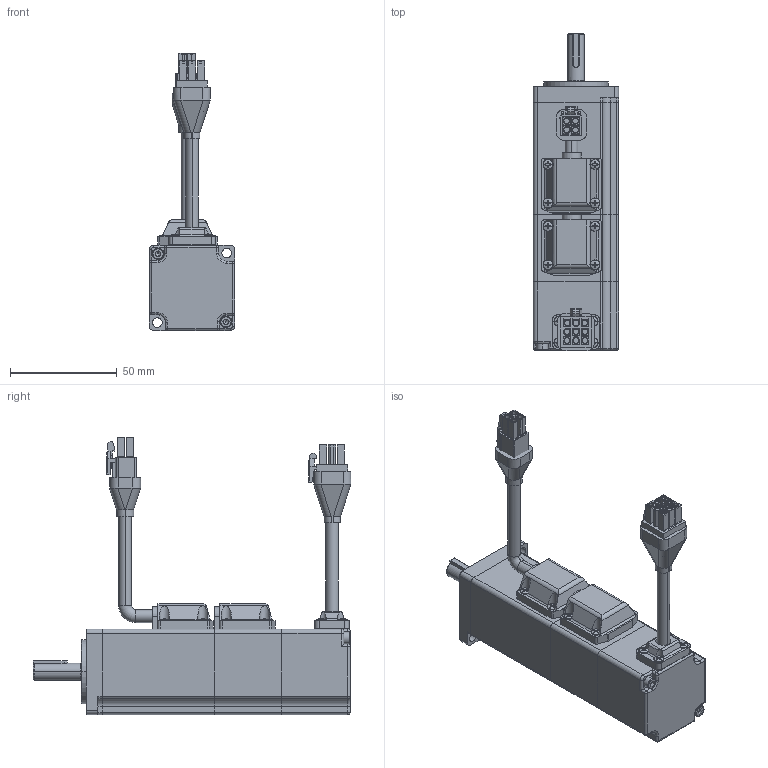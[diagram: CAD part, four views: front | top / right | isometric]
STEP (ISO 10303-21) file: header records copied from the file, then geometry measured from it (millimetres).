
FILE_DESCRIPTION (( 'STEP AP203' ), '1' );
FILE_NAME ('L-100+brake.STEP', '2019-08-21T06:42:04', ( '1' ), ( 'MideaGroup IT' ), 'SwSTEP 2.0', 'SolidWorks 2012', '' );
FILE_SCHEMA (( 'CONFIG_CONTROL_DESIGN' ));
Length unit declared in the file: millimetre
Products named in the file (35): L-100+brake; 雄薯盄揤裔郪璃; 价陬儂褲; 煦极宒晤鎢ん源偶; R40瑩; 蛌赽軞傖; Rolling bearings 609 GB 276-94_Rolling bearings 609 GB 276-94; 萇儂粣; 晤鎢ん裔軞傖; M3X28_GB_FASTENER_SCREWS_HSHCS M3X25-C; 晤鎢ん陓瘍盄; 毀嚏盄揤裔郪璃; 毀嚏盄傷赽揤裔; 晤鎢ん盄傷赽; 晤鎢ん盄揤裔躇猾; 晤鎢ん盄揤裔; 綴裔; ヶ傷裔蚾饜极; 内衬钢圈; 嘎殤蚐猾; ǰOȦ33x1; M3X10_GB_FASTENER_SCREWS_HSHCS M3X10-C; ヶ傷裔; 隅赽郪璃; M2.5X4_GB_CROSS_SCREWS_TYPE3 M2.5X8-8-N; 垫片2.5_GB_FASTENER_WASHER_SMWC 2.5; 傷赽; 雄薯盄傷赽裔; M2.5X5_GB_CROSS_SCREWS_TYPE3 M2.5X8-8-N; 雄薯盄; 雄薯盄傷赽; 雄薯盄躇猾菜; 雄薯盄揤裔; 儂褲
Assembly tree (50 placements, depth 4):
  L-100+brake
    隅赽郪璃
      儂褲
      雄薯盄揤裔郪璃
        雄薯盄揤裔
        雄薯盄躇猾菜
        雄薯盄傷赽
        雄薯盄
        M2.5X5_GB_CROSS_SCREWS_TYPE3 M2.5X8-8-N  x4
        雄薯盄傷赽裔
      傷赽
      垫片2.5_GB_FASTENER_WASHER_SMWC 2.5
      M2.5X4_GB_CROSS_SCREWS_TYPE3 M2.5X8-8-N
    ヶ傷裔蚾饜极
      ヶ傷裔
      M3X10_GB_FASTENER_SCREWS_HSHCS M3X10-C  x2
      ǰOȦ33x1
      嘎殤蚐猾
      内衬钢圈
    晤鎢ん裔軞傖
      綴裔
      毀嚏盄揤裔郪璃
        晤鎢ん盄揤裔
        晤鎢ん盄揤裔躇猾
        晤鎢ん盄傷赽
        M2.5X5_GB_CROSS_SCREWS_TYPE3 M2.5X8-8-N  x4
        毀嚏盄傷赽揤裔
      晤鎢ん陓瘍盄
      M3X28_GB_FASTENER_SCREWS_HSHCS M3X25-C  x2
    煦极宒晤鎢ん源偶
      蛌赽軞傖
        萇儂粣
        Rolling bearings 609 GB 276-94_Rolling bearings 609 GB 276-94
      R40瑩
    价陬儂褲
    雄薯盄揤裔郪璃
      雄薯盄揤裔
      雄薯盄躇猾菜
      雄薯盄
      M2.5X5_GB_CROSS_SCREWS_TYPE3 M2.5X8-8-N  x4
Bounding box: 40 x 148.87 x 129.8 mm (x, y, z)
Volume: 95559.1 mm3; surface area: 79785.9 mm2
Topology: 46 solids, 79 shells, 1729 faces, 4785 edges, 3143 vertices
Faces by surface type: plane 803, cylinder 633, cone 99, torus 98, sphere 58, bspline 38
Entity records: 50221 total; most frequent: CARTESIAN_POINT 14194, DIRECTION 6778, ORIENTED_EDGE 6445, EDGE_CURVE 3417, AXIS2_PLACEMENT_3D 2483, VERTEX_POINT 2257, VECTOR 1812, LINE 1812
